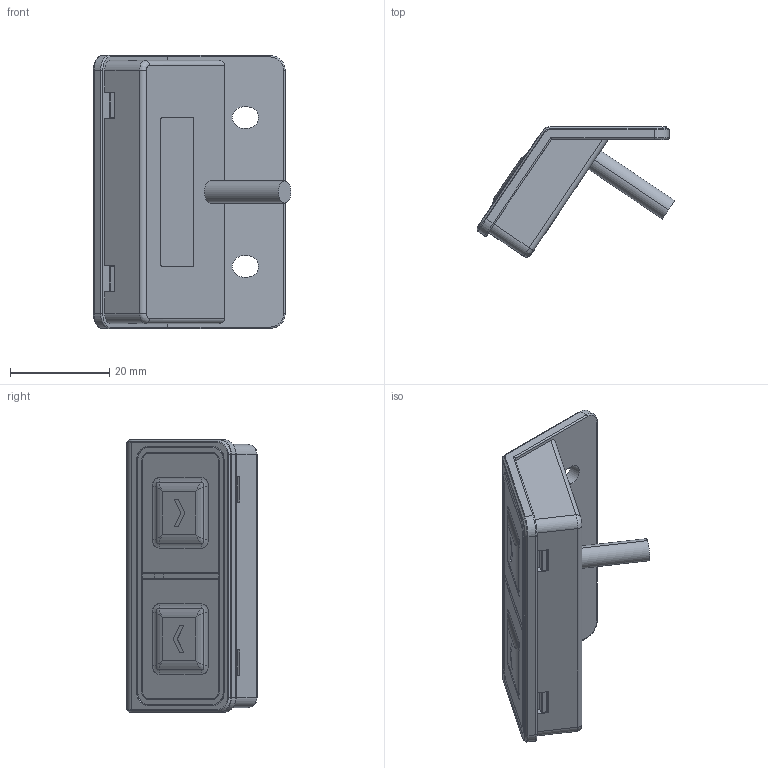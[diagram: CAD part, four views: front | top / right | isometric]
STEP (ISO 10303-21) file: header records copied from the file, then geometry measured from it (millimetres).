
FILE_DESCRIPTION((''),'2;1');
FILE_NAME('SHOUKONGQI_ASM','2019-09-18T',('user'),(''),'PRO/ENGINEER BY PARAMETRIC TECHNOLOGY CORPORATION, 2008090','PRO/ENGINEER BY PARAMETRIC TECHNOLOGY CORPORATION, 2008090','');
FILE_SCHEMA(('CONFIG_CONTROL_DESIGN'));
Length unit declared in the file: millimetre
Products named in the file (1): SHOUKONGQI_ASM
Bounding box: 39.85 x 26.22 x 55 mm (x, y, z)
Volume: 9077.9 mm3; surface area: 11725.2 mm2
Topology: 1 solids, 1 shells, 358 faces, 922 edges, 574 vertices
Faces by surface type: plane 154, cylinder 140, bspline 33, torus 23, cone 6, extrusion 2
Entity records: 12155 total; most frequent: CARTESIAN_POINT 3451, ORIENTED_EDGE 1844, DIRECTION 1768, EDGE_CURVE 922, AXIS2_PLACEMENT_3D 601, VERTEX_POINT 574, VECTOR 566, LINE 564
